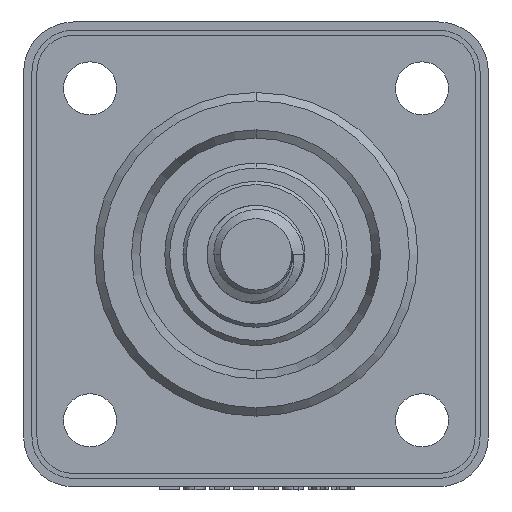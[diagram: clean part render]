
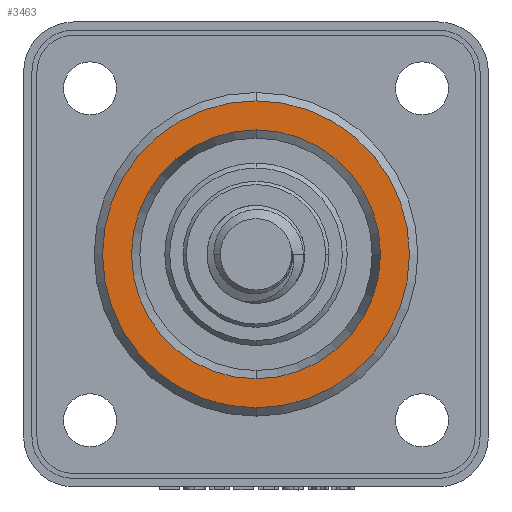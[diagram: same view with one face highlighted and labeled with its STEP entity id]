
A CAD part, front view. The second image highlights one B-rep face of the part: STEP entity #3463.
In plain terms, the highlighted planar face has unit normal (0, -1, 0).
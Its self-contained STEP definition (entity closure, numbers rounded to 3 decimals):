
#93 = AXIS2_PLACEMENT_3D ( 'NONE', #7565, #7566, #7567 ) ;
#200 = AXIS2_PLACEMENT_3D ( 'NONE', #11136, #11137, #11138 ) ;
#321 = FACE_BOUND ( 'NONE', #14280, .T. ) ;
#325 = FACE_OUTER_BOUND ( 'NONE', #14283, .T. ) ;
#1001 = EDGE_CURVE ( 'NONE', #13723, #13734, #2237, .T. ) ;
#1038 = EDGE_CURVE ( 'NONE', #13776, #13714, #2223, .T. ) ;
#1213 = DIRECTION ( 'NONE',  ( 0., 0., -1. ) ) ;
#1214 = DIRECTION ( 'NONE',  ( 0., 1., 0. ) ) ;
#1423 = CARTESIAN_POINT ( 'NONE',  ( -2.212, -16.939, -0.228 ) ) ;
#1553 = DIRECTION ( 'NONE',  ( 0., -1., 0. ) ) ;
#1575 = CARTESIAN_POINT ( 'NONE',  ( -2.212, -16.939, -0.228 ) ) ;
#1576 = DIRECTION ( 'NONE',  ( 0., 0., -1. ) ) ;
#2223 = CIRCLE ( 'NONE', #3330, 9.25 ) ;
#2237 = CIRCLE ( 'NONE', #3318, 7.5 ) ;
#3318 = AXIS2_PLACEMENT_3D ( 'NONE', #1423, #1214, #1213 ) ;
#3330 = AXIS2_PLACEMENT_3D ( 'NONE', #1575, #1553, #1576 ) ;
#3463 = ADVANCED_FACE ( 'NONE', ( #321, #325 ), #8641, .F. ) ;
#5159 = AXIS2_PLACEMENT_3D ( 'NONE', #8667, #8671, #8673 ) ;
#6353 = EDGE_CURVE ( 'NONE', #13734, #13723, #15541, .T. ) ;
#7565 = CARTESIAN_POINT ( 'NONE',  ( -2.212, -16.939, -0.228 ) ) ;
#7566 = DIRECTION ( 'NONE',  ( 0., 1., 0. ) ) ;
#7567 = DIRECTION ( 'NONE',  ( 0., 0., -1. ) ) ;
#8641 = PLANE ( 'NONE',  #5159 ) ;
#8667 = CARTESIAN_POINT ( 'NONE',  ( -7.062, -16.939, -0.228 ) ) ;
#8671 = DIRECTION ( 'NONE',  ( 0., 1., 0. ) ) ;
#8673 = DIRECTION ( 'NONE',  ( 0., 0., -1. ) ) ;
#9475 = ORIENTED_EDGE ( 'NONE', *, *, #1038, .T. ) ;
#9476 = ORIENTED_EDGE ( 'NONE', *, *, #1001, .T. ) ;
#9477 = ORIENTED_EDGE ( 'NONE', *, *, #6353, .T. ) ;
#9489 = ORIENTED_EDGE ( 'NONE', *, *, #14005, .T. ) ;
#10217 = CARTESIAN_POINT ( 'NONE',  ( -2.212, -16.939, 9.022 ) ) ;
#10226 = CARTESIAN_POINT ( 'NONE',  ( -2.212, -16.939, -7.728 ) ) ;
#10237 = CARTESIAN_POINT ( 'NONE',  ( -2.212, -16.939, 7.272 ) ) ;
#10246 = CARTESIAN_POINT ( 'NONE',  ( -2.212, -16.939, -9.478 ) ) ;
#10947 = CIRCLE ( 'NONE', #200, 9.25 ) ;
#11136 = CARTESIAN_POINT ( 'NONE',  ( -2.212, -16.939, -0.228 ) ) ;
#11137 = DIRECTION ( 'NONE',  ( 0., -1., 0. ) ) ;
#11138 = DIRECTION ( 'NONE',  ( 0., 0., -1. ) ) ;
#13714 = VERTEX_POINT ( 'NONE', #10217 ) ;
#13723 = VERTEX_POINT ( 'NONE', #10226 ) ;
#13734 = VERTEX_POINT ( 'NONE', #10237 ) ;
#13776 = VERTEX_POINT ( 'NONE', #10246 ) ;
#14005 = EDGE_CURVE ( 'NONE', #13714, #13776, #10947, .T. ) ;
#14280 = EDGE_LOOP ( 'NONE', ( #9477, #9476 ) ) ;
#14283 = EDGE_LOOP ( 'NONE', ( #9475, #9489 ) ) ;
#15541 = CIRCLE ( 'NONE', #93, 7.5 ) ;
